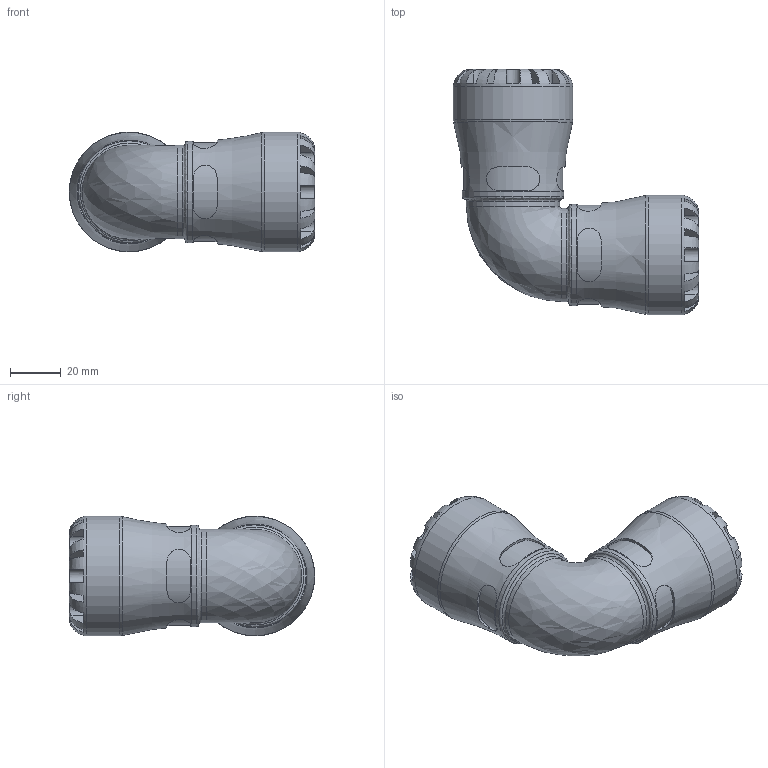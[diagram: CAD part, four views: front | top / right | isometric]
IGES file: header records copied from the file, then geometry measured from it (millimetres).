
Global section: file name: 1005A6007.ipt; native system: Autodesk Inventor 2019; preprocessor: unknown; author: KIM; date: 20210902.120316; units: inch
Bounding box: 96.39 x 96.39 x 46.99 mm (x, y, z)
Volume: 117180.5 mm3; surface area: 33233.6 mm2
Topology: 1 solids, 1 shells, 196 faces, 513 edges, 327 vertices
Faces by surface type: plane 116, revolution 50, cylinder 30
Full cylindrical faces by diameter (mm): 36.652 x2, 39.941 x2, 46.99 x2
